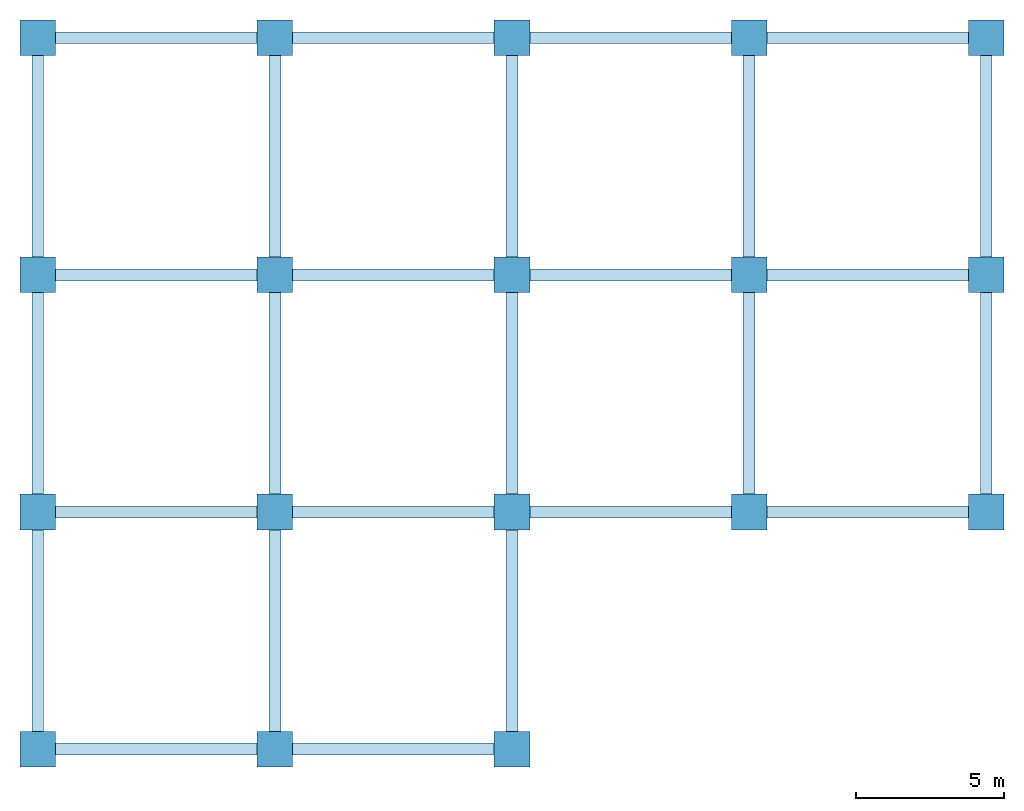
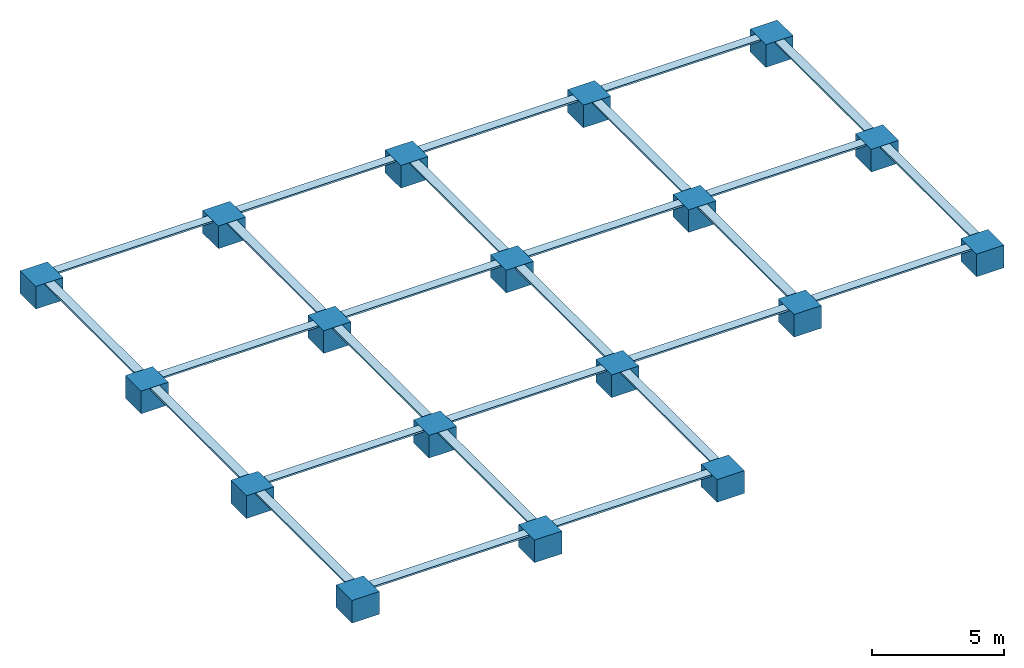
# One storey: 27 slabs, 18 footings.
"""IFC4X3_ADD2 building model written with IfcOpenShell, lengths in millimetres."""

from ifc_helpers import new_model, entity, si_unit, converted_unit, derived_unit, direction, frame, frame_2d, origin, origin_2d_with_axis, place, context, subcontext, project, spatial, rectangle, extrude, source, transform, mapped, material, layer, layer_set, layer_usage, type_object, type_shapes, element, save


model = new_model("IFC4X3_ADD2")

# Units and contexts
model_context = context("Model", 3, precision=0.01, world=origin(), true_north=direction((6.123233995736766e-17, 1.0)))
plan_context = context("Plan", 3, precision=0.01, world=origin(), true_north=direction((6.123233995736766e-17, 1.0)))
body_context = subcontext(model_context, "Body", "Model", "MODEL_VIEW")
ifc_project = project(units=[si_unit("LENGTHUNIT", "METRE", prefix="MILLI"), converted_unit("PLANEANGLEUNIT", "DEGREE", entity("IfcPlaneAngleMeasure", 0.017453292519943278), si_unit("PLANEANGLEUNIT", "RADIAN"), dimensions=[0, 0, 0, 0, 0, 0, 0]), si_unit("AREAUNIT", "SQUARE_METRE"), si_unit("VOLUMEUNIT", "CUBIC_METRE"), derived_unit("THERMALTRANSMITTANCEUNIT", [(si_unit("MASSUNIT", "GRAM", prefix="KILO"), 1), (si_unit("THERMODYNAMICTEMPERATUREUNIT", "KELVIN"), -1), (si_unit("TIMEUNIT", "SECOND"), -3)]), derived_unit("USERDEFINED", [(si_unit("MASSUNIT", "GRAM", prefix="KILO"), 1), (si_unit("THERMODYNAMICTEMPERATUREUNIT", "KELVIN"), -1), (si_unit("TIMEUNIT", "SECOND"), -2)]), derived_unit("THERMALRESISTANCEUNIT", [(si_unit("MASSUNIT", "GRAM", prefix="KILO"), -1), (si_unit("TIMEUNIT", "SECOND"), 3), (si_unit("THERMODYNAMICTEMPERATUREUNIT", "KELVIN"), 1)]), si_unit("PRESSUREUNIT", "PASCAL"), derived_unit("MASSDENSITYUNIT", [(si_unit("MASSUNIT", "GRAM", prefix="KILO"), 1), (si_unit("LENGTHUNIT", "METRE"), -3)]), derived_unit("MODULUSOFELASTICITYUNIT", [(si_unit("MASSUNIT", "GRAM", prefix="KILO"), 1), (si_unit("TIMEUNIT", "SECOND"), -2), (si_unit("LENGTHUNIT", "METRE"), -1)]), derived_unit("THERMALEXPANSIONCOEFFICIENTUNIT", [(si_unit("THERMODYNAMICTEMPERATUREUNIT", "KELVIN"), -1)]), derived_unit("VAPORPERMEABILITYUNIT", [(si_unit("LENGTHUNIT", "METRE"), -1), (si_unit("TIMEUNIT", "SECOND"), 1)]), derived_unit("USERDEFINED", [(si_unit("MASSUNIT", "GRAM", prefix="KILO"), 1), (si_unit("TIMEUNIT", "SECOND"), -3), (si_unit("LENGTHUNIT", "METRE"), 3), (si_unit("ELECTRICCURRENTUNIT", "AMPERE"), -2)]), derived_unit("SPECIFICHEATCAPACITYUNIT", [(si_unit("THERMODYNAMICTEMPERATUREUNIT", "KELVIN"), -1), (si_unit("TIMEUNIT", "SECOND"), -2), (si_unit("LENGTHUNIT", "METRE"), 2)]), derived_unit("THERMALCONDUCTANCEUNIT", [(si_unit("MASSUNIT", "GRAM", prefix="KILO"), 1), (si_unit("THERMODYNAMICTEMPERATUREUNIT", "KELVIN"), -1), (si_unit("TIMEUNIT", "SECOND"), -3), (si_unit("LENGTHUNIT", "METRE"), 1)])], contexts=[model_context, plan_context])

# Site, building, storey
site_placement = place(None, origin())
site = spatial("IfcSite", under=ifc_project, at=site_placement, Name="Default", CompositionType="ELEMENT")
building_placement = place(site_placement, origin())
building = spatial("IfcBuilding", under=site, at=building_placement, Name="Building Name", CompositionType="ELEMENT")
storey_placement = place(building_placement, frame((0.0, 0.0, -800.0)))
storey = spatial("IfcBuildingStorey", under=building, at=storey_placement, Name="L-01", CompositionType="ELEMENT", Elevation=-800.0)

# Footings
ifc_material_1 = material(Name="Concrete, Cast-in-Place gray", Category="Concrete")
footing_type = type_object("IfcFootingType", Name="M_Footing-Rectangular:1200 x 1200 x 1050mm", PredefinedType="NOTDEFINED", material=ifc_material_1)
shared_shape = source(origin(), body_context, "Body", "SweptSolid", [
    extrude(rectangle(XDim=1200.0, YDim=1200.0, at=origin_2d_with_axis()), frame((0.0, 0.0, -1050.0), z_axis=(0.0, 0.0, 1.0), x_axis=(-1.0, 0.0, 0.0)), (0.0, 0.0, 1.0), 1050.0),
])
type_shapes(footing_type, [shared_shape])
for number, where, name in (
    (1, (-12967.951236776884, 12096.696870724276, 0.0), "M_Footing-Rectangular:1200 x 1200 x 1050mm"),
    (2, (3032.0487632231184, 12096.696870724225, 0.0), "M_Footing-Rectangular:1200 x 1200 x 1050mm"),
    (3, (11032.048763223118, 12096.6968707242, 0.0), "M_Footing-Rectangular:1200 x 1200 x 1050mm"),
    (4, (19032.04876322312, 12096.696870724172, 0.0), "M_Footing-Rectangular:1200 x 1200 x 1050mm"),
    (5, (-4967.951236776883, 12096.69687072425, 0.0), "M_Footing-Rectangular:1200 x 1200 x 1050mm"),
    (6, (-12967.951236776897, 4096.69687072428, 0.0), "M_Footing-Rectangular:1200 x 1200 x 1050mm"),
    (7, (3032.048763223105, 4096.696870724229, 0.0), "M_Footing-Rectangular:1200 x 1200 x 1050mm"),
    (8, (11032.048763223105, 4096.696870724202, 0.0), "M_Footing-Rectangular:1200 x 1200 x 1050mm"),
    (9, (19032.048763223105, 4096.696870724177, 0.0), "M_Footing-Rectangular:1200 x 1200 x 1050mm"),
    (10, (-4967.951236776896, 4096.696870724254, 0.0), "M_Footing-Rectangular:1200 x 1200 x 1050mm"),
    (11, (-12967.95123677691, -3903.30312927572, 0.0), "M_Footing-Rectangular:1200 x 1200 x 1050mm"),
    (12, (3032.048763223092, -3903.303129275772, 0.0), "M_Footing-Rectangular:1200 x 1200 x 1050mm"),
    (13, (11032.048763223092, -3903.3031292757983, 0.0), "M_Footing-Rectangular:1200 x 1200 x 1050mm"),
    (14, (19032.048763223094, -3903.303129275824, 0.0), "M_Footing-Rectangular:1200 x 1200 x 1050mm"),
    (15, (-4967.951236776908, -3903.303129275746, 0.0), "M_Footing-Rectangular:1200 x 1200 x 1050mm"),
    (16, (-12967.951236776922, -11903.30312927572, 0.0), "M_Footing-Rectangular:1200 x 1200 x 1050mm"),
    (17, (3032.0487632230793, -11903.303129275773, 0.0), "M_Footing-Rectangular:1200 x 1200 x 1050mm"),
    (18, (-4967.951236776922, -11903.303129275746, 0.0), "M_Footing-Rectangular:1200 x 1200 x 1050mm"),
):
    element("IfcFooting", number, at=place(storey_placement, frame(where)), inside=storey, type_object=footing_type, material=ifc_material_1, Name=name, ObjectType="M_Footing-Rectangular:1200 x 1200 x 1050mm", PredefinedType="NOTDEFINED", context=body_context, shape_type="MappedRepresentation", body=[
        mapped(shared_shape, transform((0.0, 0.0, 0.0), scale=1.0)),
    ])

# Slabs
ifc_material_2 = material(Name="Concrete - Cast-in-Place Concrete", Category="Concrete")
ifc_layer = layer(ifc_material_2, 80.0, Name="Concrete - Cast-in-Place Concrete", Category="Concrete")
ifc_layer_set = layer_set([ifc_layer], Name="Floor:Blinding concrete 80mm")
ifc_layer_usage_1 = layer_usage(ifc_layer_set, "AXIS3", "POSITIVE", 0.0)
slab_type = type_object("IfcSlabType", Name="Floor:Blinding concrete 80mm", PredefinedType="FLOOR", material=ifc_layer_set)
slab_1_placement = place(storey_placement, origin())
element("IfcSlab", 19, at=slab_1_placement, inside=storey, type_object=slab_type, material=ifc_layer_usage_1, Name="Floor:Blinding concrete 80mm", ObjectType="Floor:Blinding concrete 80mm", PredefinedType="FLOOR", context=body_context, shape_type="SweptSolid", body=[
    extrude(rectangle(XDim=6799.999999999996, YDim=400.00000000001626, at=frame_2d((0.0, 5.400124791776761e-13), x_axis=(1.0, 0.0))), frame((-4967.951236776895, 8096.696870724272, 0.0), z_axis=(0.0, 0.0, -1.0), x_axis=(0.0, 1.0, 0.0)), (0.0, 0.0, 1.0), 79.99999999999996),
])
ifc_layer_usage_2 = layer_usage(ifc_layer_set, "AXIS3", "POSITIVE", 0.0)
slab_2_placement = place(storey_placement, origin())
element("IfcSlab", 20, at=slab_2_placement, inside=storey, type_object=slab_type, material=ifc_layer_usage_2, Name="Floor:Blinding concrete 80mm", ObjectType="Floor:Blinding concrete 80mm", PredefinedType="FLOOR", context=body_context, shape_type="SweptSolid", body=[
    extrude(rectangle(XDim=6799.999999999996, YDim=400.00000000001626, at=origin_2d_with_axis()), frame((3032.0487632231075, 8096.696870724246, 0.0), z_axis=(0.0, 0.0, -1.0), x_axis=(0.0, 1.0, 0.0)), (0.0, 0.0, 1.0), 79.99999999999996),
])
ifc_layer_usage_3 = layer_usage(ifc_layer_set, "AXIS3", "POSITIVE", 0.0)
slab_3_placement = place(storey_placement, origin())
element("IfcSlab", 21, at=slab_3_placement, inside=storey, type_object=slab_type, material=ifc_layer_usage_3, Name="Floor:Blinding concrete 80mm", ObjectType="Floor:Blinding concrete 80mm", PredefinedType="FLOOR", context=body_context, shape_type="SweptSolid", body=[
    extrude(rectangle(XDim=6799.999999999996, YDim=400.00000000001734, at=origin_2d_with_axis()), frame((11032.048763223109, 8096.69687072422, 0.0), z_axis=(0.0, 0.0, -1.0), x_axis=(0.0, 1.0, 0.0)), (0.0, 0.0, 1.0), 79.99999999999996),
])
ifc_layer_usage_4 = layer_usage(ifc_layer_set, "AXIS3", "POSITIVE", 0.0)
slab_4_placement = place(storey_placement, origin())
element("IfcSlab", 22, at=slab_4_placement, inside=storey, type_object=slab_type, material=ifc_layer_usage_4, Name="Floor:Blinding concrete 80mm", ObjectType="Floor:Blinding concrete 80mm", PredefinedType="FLOOR", context=body_context, shape_type="SweptSolid", body=[
    extrude(rectangle(XDim=6799.999999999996, YDim=400.00000000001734, at=origin_2d_with_axis()), frame((19032.04876322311, 8096.696870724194, 0.0), z_axis=(0.0, 0.0, -1.0), x_axis=(0.0, 1.0, 0.0)), (0.0, 0.0, 1.0), 79.99999999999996),
])
ifc_layer_usage_5 = layer_usage(ifc_layer_set, "AXIS3", "POSITIVE", 0.0)
slab_5_placement = place(storey_placement, origin())
element("IfcSlab", 23, at=slab_5_placement, inside=storey, type_object=slab_type, material=ifc_layer_usage_5, Name="Floor:Blinding concrete 80mm", ObjectType="Floor:Blinding concrete 80mm", PredefinedType="FLOOR", context=body_context, shape_type="SweptSolid", body=[
    extrude(rectangle(XDim=6799.999999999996, YDim=400.00000000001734, at=frame_2d((0.0, 2.1600499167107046e-12), x_axis=(1.0, 0.0))), frame((-12967.951236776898, 8096.696870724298, 0.0), z_axis=(0.0, 0.0, -1.0), x_axis=(0.0, 1.0, 0.0)), (0.0, 0.0, 1.0), 79.99999999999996),
])
ifc_layer_usage_6 = layer_usage(ifc_layer_set, "AXIS3", "POSITIVE", 0.0)
slab_6_placement = place(storey_placement, origin())
element("IfcSlab", 24, at=slab_6_placement, inside=storey, type_object=slab_type, material=ifc_layer_usage_6, Name="Floor:Blinding concrete 80mm", ObjectType="Floor:Blinding concrete 80mm", PredefinedType="FLOOR", context=body_context, shape_type="SweptSolid", body=[
    extrude(rectangle(XDim=6799.999999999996, YDim=400.00000000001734, at=origin_2d_with_axis()), frame((-12967.95123677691, 96.69687072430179, 0.0), z_axis=(0.0, 0.0, -1.0), x_axis=(0.0, 1.0, 0.0)), (0.0, 0.0, 1.0), 79.99999999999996),
])
ifc_layer_usage_7 = layer_usage(ifc_layer_set, "AXIS3", "POSITIVE", 0.0)
slab_7_placement = place(storey_placement, origin())
element("IfcSlab", 25, at=slab_7_placement, inside=storey, type_object=slab_type, material=ifc_layer_usage_7, Name="Floor:Blinding concrete 80mm", ObjectType="Floor:Blinding concrete 80mm", PredefinedType="FLOOR", context=body_context, shape_type="SweptSolid", body=[
    extrude(rectangle(XDim=6799.999999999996, YDim=400.00000000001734, at=frame_2d((0.0, -2.1600499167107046e-12), x_axis=(1.0, 0.0))), frame((-12967.95123677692, -7903.303129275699, 0.0), z_axis=(0.0, 0.0, -1.0), x_axis=(0.0, 1.0, 0.0)), (0.0, 0.0, 1.0), 79.99999999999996),
])
ifc_layer_usage_8 = layer_usage(ifc_layer_set, "AXIS3", "POSITIVE", 0.0)
slab_8_placement = place(storey_placement, origin())
element("IfcSlab", 26, at=slab_8_placement, inside=storey, type_object=slab_type, material=ifc_layer_usage_8, Name="Floor:Blinding concrete 80mm", ObjectType="Floor:Blinding concrete 80mm", PredefinedType="FLOOR", context=body_context, shape_type="SweptSolid", body=[
    extrude(rectangle(XDim=6799.999999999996, YDim=400.00000000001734, at=origin_2d_with_axis()), frame((-4967.951236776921, -7903.303129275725, 0.0), z_axis=(0.0, 0.0, -1.0), x_axis=(0.0, 1.0, 0.0)), (0.0, 0.0, 1.0), 79.99999999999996),
])
ifc_layer_usage_9 = layer_usage(ifc_layer_set, "AXIS3", "POSITIVE", 0.0)
slab_9_placement = place(storey_placement, origin())
element("IfcSlab", 27, at=slab_9_placement, inside=storey, type_object=slab_type, material=ifc_layer_usage_9, Name="Floor:Blinding concrete 80mm", ObjectType="Floor:Blinding concrete 80mm", PredefinedType="FLOOR", context=body_context, shape_type="SweptSolid", body=[
    extrude(rectangle(XDim=6799.999999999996, YDim=400.00000000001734, at=origin_2d_with_axis()), frame((-4967.9512367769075, 96.6968707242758, 0.0), z_axis=(0.0, 0.0, -1.0), x_axis=(0.0, 1.0, 0.0)), (0.0, 0.0, 1.0), 79.99999999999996),
])
ifc_layer_usage_10 = layer_usage(ifc_layer_set, "AXIS3", "POSITIVE", 0.0)
slab_10_placement = place(storey_placement, origin())
element("IfcSlab", 28, at=slab_10_placement, inside=storey, type_object=slab_type, material=ifc_layer_usage_10, Name="Floor:Blinding concrete 80mm", ObjectType="Floor:Blinding concrete 80mm", PredefinedType="FLOOR", context=body_context, shape_type="SweptSolid", body=[
    extrude(rectangle(XDim=6799.999999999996, YDim=400.00000000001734, at=origin_2d_with_axis()), frame((3032.048763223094, 96.69687072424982, 0.0), z_axis=(0.0, 0.0, -1.0), x_axis=(0.0, 1.0, 0.0)), (0.0, 0.0, 1.0), 79.99999999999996),
])
ifc_layer_usage_11 = layer_usage(ifc_layer_set, "AXIS3", "POSITIVE", 0.0)
slab_11_placement = place(storey_placement, origin())
element("IfcSlab", 29, at=slab_11_placement, inside=storey, type_object=slab_type, material=ifc_layer_usage_11, Name="Floor:Blinding concrete 80mm", ObjectType="Floor:Blinding concrete 80mm", PredefinedType="FLOOR", context=body_context, shape_type="SweptSolid", body=[
    extrude(rectangle(XDim=6799.999999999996, YDim=400.00000000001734, at=origin_2d_with_axis()), frame((11032.048763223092, 96.69687072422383, 0.0), z_axis=(0.0, 0.0, -1.0), x_axis=(0.0, 1.0, 0.0)), (0.0, 0.0, 1.0), 79.99999999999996),
])
ifc_layer_usage_12 = layer_usage(ifc_layer_set, "AXIS3", "POSITIVE", 0.0)
slab_12_placement = place(storey_placement, origin())
element("IfcSlab", 30, at=slab_12_placement, inside=storey, type_object=slab_type, material=ifc_layer_usage_12, Name="Floor:Blinding concrete 80mm", ObjectType="Floor:Blinding concrete 80mm", PredefinedType="FLOOR", context=body_context, shape_type="SweptSolid", body=[
    extrude(rectangle(XDim=6799.999999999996, YDim=400.00000000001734, at=frame_2d((0.0, -2.1600499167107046e-12), x_axis=(1.0, 0.0))), frame((19032.048763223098, 96.69687072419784, 0.0), z_axis=(0.0, 0.0, -1.0), x_axis=(0.0, 1.0, 0.0)), (0.0, 0.0, 1.0), 79.99999999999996),
])
ifc_layer_usage_13 = layer_usage(ifc_layer_set, "AXIS3", "POSITIVE", 0.0)
slab_13_placement = place(storey_placement, origin())
element("IfcSlab", 31, at=slab_13_placement, inside=storey, type_object=slab_type, material=ifc_layer_usage_13, Name="Floor:Blinding concrete 80mm", ObjectType="Floor:Blinding concrete 80mm", PredefinedType="FLOOR", context=body_context, shape_type="SweptSolid", body=[
    extrude(rectangle(XDim=6799.999999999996, YDim=400.00000000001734, at=origin_2d_with_axis()), frame((3032.048763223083, -7903.3031292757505, 0.0), z_axis=(0.0, 0.0, -1.0), x_axis=(0.0, 1.0, 0.0)), (0.0, 0.0, 1.0), 79.99999999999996),
])
ifc_layer_usage_14 = layer_usage(ifc_layer_set, "AXIS3", "POSITIVE", 0.0)
slab_14_placement = place(storey_placement, origin())
element("IfcSlab", 32, at=slab_14_placement, inside=storey, type_object=slab_type, material=ifc_layer_usage_14, Name="Floor:Blinding concrete 80mm", ObjectType="Floor:Blinding concrete 80mm", PredefinedType="FLOOR", context=body_context, shape_type="SweptSolid", body=[
    extrude(rectangle(XDim=399.9999999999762, YDim=6800.0, at=origin_2d_with_axis()), frame((-967.9512367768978, 4096.696870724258, 0.0), z_axis=(0.0, 0.0, -1.0), x_axis=(0.0, 1.0, 0.0)), (0.0, 0.0, 1.0), 79.99999999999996),
])
ifc_layer_usage_15 = layer_usage(ifc_layer_set, "AXIS3", "POSITIVE", 0.0)
slab_15_placement = place(storey_placement, origin())
element("IfcSlab", 33, at=slab_15_placement, inside=storey, type_object=slab_type, material=ifc_layer_usage_15, Name="Floor:Blinding concrete 80mm", ObjectType="Floor:Blinding concrete 80mm", PredefinedType="FLOOR", context=body_context, shape_type="SweptSolid", body=[
    extrude(rectangle(XDim=399.9999999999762, YDim=6800.0, at=origin_2d_with_axis()), frame((7032.0487632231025, 4096.696870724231, 0.0), z_axis=(0.0, 0.0, -1.0), x_axis=(0.0, 1.0, 0.0)), (0.0, 0.0, 1.0), 79.99999999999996),
])
ifc_layer_usage_16 = layer_usage(ifc_layer_set, "AXIS3", "POSITIVE", 0.0)
slab_16_placement = place(storey_placement, origin())
element("IfcSlab", 34, at=slab_16_placement, inside=storey, type_object=slab_type, material=ifc_layer_usage_16, Name="Floor:Blinding concrete 80mm", ObjectType="Floor:Blinding concrete 80mm", PredefinedType="FLOOR", context=body_context, shape_type="SweptSolid", body=[
    extrude(rectangle(XDim=399.9999999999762, YDim=6800.0, at=origin_2d_with_axis()), frame((15032.048763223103, 4096.696870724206, 0.0), z_axis=(0.0, 0.0, -1.0), x_axis=(0.0, 1.0, 0.0)), (0.0, 0.0, 1.0), 79.99999999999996),
])
ifc_layer_usage_17 = layer_usage(ifc_layer_set, "AXIS3", "POSITIVE", 0.0)
slab_17_placement = place(storey_placement, origin())
element("IfcSlab", 35, at=slab_17_placement, inside=storey, type_object=slab_type, material=ifc_layer_usage_17, Name="Floor:Blinding concrete 80mm", ObjectType="Floor:Blinding concrete 80mm", PredefinedType="FLOOR", context=body_context, shape_type="SweptSolid", body=[
    extrude(rectangle(XDim=399.9999999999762, YDim=6800.0, at=origin_2d_with_axis()), frame((-967.9512367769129, -3903.3031292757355, 0.0), z_axis=(0.0, 0.0, -1.0), x_axis=(0.0, 1.0, 0.0)), (0.0, 0.0, 1.0), 79.99999999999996),
])
ifc_layer_usage_18 = layer_usage(ifc_layer_set, "AXIS3", "POSITIVE", 0.0)
slab_18_placement = place(storey_placement, origin())
element("IfcSlab", 36, at=slab_18_placement, inside=storey, type_object=slab_type, material=ifc_layer_usage_18, Name="Floor:Blinding concrete 80mm", ObjectType="Floor:Blinding concrete 80mm", PredefinedType="FLOOR", context=body_context, shape_type="SweptSolid", body=[
    extrude(rectangle(XDim=399.9999999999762, YDim=6800.0, at=origin_2d_with_axis()), frame((7032.04876322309, -3903.3031292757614, 0.0), z_axis=(0.0, 0.0, -1.0), x_axis=(0.0, 1.0, 0.0)), (0.0, 0.0, 1.0), 79.99999999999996),
])
ifc_layer_usage_19 = layer_usage(ifc_layer_set, "AXIS3", "POSITIVE", 0.0)
slab_19_placement = place(storey_placement, origin())
element("IfcSlab", 37, at=slab_19_placement, inside=storey, type_object=slab_type, material=ifc_layer_usage_19, Name="Floor:Blinding concrete 80mm", ObjectType="Floor:Blinding concrete 80mm", PredefinedType="FLOOR", context=body_context, shape_type="SweptSolid", body=[
    extrude(rectangle(XDim=399.9999999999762, YDim=6800.0, at=origin_2d_with_axis()), frame((15032.04876322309, -3903.3031292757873, 0.0), z_axis=(0.0, 0.0, -1.0), x_axis=(0.0, 1.0, 0.0)), (0.0, 0.0, 1.0), 79.99999999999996),
])
ifc_layer_usage_20 = layer_usage(ifc_layer_set, "AXIS3", "POSITIVE", 0.0)
slab_20_placement = place(storey_placement, origin())
element("IfcSlab", 38, at=slab_20_placement, inside=storey, type_object=slab_type, material=ifc_layer_usage_20, Name="Floor:Blinding concrete 80mm", ObjectType="Floor:Blinding concrete 80mm", PredefinedType="FLOOR", context=body_context, shape_type="SweptSolid", body=[
    extrude(rectangle(XDim=399.9999999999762, YDim=6800.0, at=frame_2d((-1.0800249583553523e-12, 0.0), x_axis=(1.0, 0.0))), frame((-967.9512367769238, -11903.303129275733, 0.0), z_axis=(0.0, 0.0, -1.0), x_axis=(0.0, 1.0, 0.0)), (0.0, 0.0, 1.0), 79.99999999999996),
])
ifc_layer_usage_21 = layer_usage(ifc_layer_set, "AXIS3", "POSITIVE", 0.0)
slab_21_placement = place(storey_placement, origin())
element("IfcSlab", 39, at=slab_21_placement, inside=storey, type_object=slab_type, material=ifc_layer_usage_21, Name="Floor:Blinding concrete 80mm", ObjectType="Floor:Blinding concrete 80mm", PredefinedType="FLOOR", context=body_context, shape_type="SweptSolid", body=[
    extrude(rectangle(XDim=399.9999999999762, YDim=6800.0, at=frame_2d((-1.0800249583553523e-12, 0.0), x_axis=(1.0, 0.0))), frame((-8967.951236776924, -11903.303129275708, 0.0), z_axis=(0.0, 0.0, -1.0), x_axis=(0.0, 1.0, 0.0)), (0.0, 0.0, 1.0), 79.99999999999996),
])
ifc_layer_usage_22 = layer_usage(ifc_layer_set, "AXIS3", "POSITIVE", 0.0)
slab_22_placement = place(storey_placement, origin())
element("IfcSlab", 40, at=slab_22_placement, inside=storey, type_object=slab_type, material=ifc_layer_usage_22, Name="Floor:Blinding concrete 80mm", ObjectType="Floor:Blinding concrete 80mm", PredefinedType="FLOOR", context=body_context, shape_type="SweptSolid", body=[
    extrude(rectangle(XDim=399.9999999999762, YDim=6800.0, at=origin_2d_with_axis()), frame((-8967.951236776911, -3903.303129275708, 0.0), z_axis=(0.0, 0.0, -1.0), x_axis=(0.0, 1.0, 0.0)), (0.0, 0.0, 1.0), 79.99999999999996),
])
ifc_layer_usage_23 = layer_usage(ifc_layer_set, "AXIS3", "POSITIVE", 0.0)
slab_23_placement = place(storey_placement, origin())
element("IfcSlab", 41, at=slab_23_placement, inside=storey, type_object=slab_type, material=ifc_layer_usage_23, Name="Floor:Blinding concrete 80mm", ObjectType="Floor:Blinding concrete 80mm", PredefinedType="FLOOR", context=body_context, shape_type="SweptSolid", body=[
    extrude(rectangle(XDim=399.9999999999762, YDim=6800.0, at=origin_2d_with_axis()), frame((-8967.951236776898, 4096.696870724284, 0.0), z_axis=(0.0, 0.0, -1.0), x_axis=(0.0, 1.0, 0.0)), (0.0, 0.0, 1.0), 79.99999999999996),
])
ifc_layer_usage_24 = layer_usage(ifc_layer_set, "AXIS3", "POSITIVE", 0.0)
slab_24_placement = place(storey_placement, origin())
element("IfcSlab", 42, at=slab_24_placement, inside=storey, type_object=slab_type, material=ifc_layer_usage_24, Name="Floor:Blinding concrete 80mm", ObjectType="Floor:Blinding concrete 80mm", PredefinedType="FLOOR", context=body_context, shape_type="SweptSolid", body=[
    extrude(rectangle(XDim=399.9999999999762, YDim=6800.0, at=frame_2d((1.0800249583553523e-12, 0.0), x_axis=(1.0, 0.0))), frame((-8967.951236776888, 12096.696870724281, 0.0), z_axis=(0.0, 0.0, -1.0), x_axis=(0.0, 1.0, 0.0)), (0.0, 0.0, 1.0), 79.99999999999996),
])
ifc_layer_usage_25 = layer_usage(ifc_layer_set, "AXIS3", "POSITIVE", 0.0)
slab_25_placement = place(storey_placement, origin())
element("IfcSlab", 43, at=slab_25_placement, inside=storey, type_object=slab_type, material=ifc_layer_usage_25, Name="Floor:Blinding concrete 80mm", ObjectType="Floor:Blinding concrete 80mm", PredefinedType="FLOOR", context=body_context, shape_type="SweptSolid", body=[
    extrude(rectangle(XDim=399.9999999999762, YDim=6800.0, at=frame_2d((1.0800249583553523e-12, 0.0), x_axis=(1.0, 0.0))), frame((-967.9512367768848, 12096.696870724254, 0.0), z_axis=(0.0, 0.0, -1.0), x_axis=(0.0, 1.0, 0.0)), (0.0, 0.0, 1.0), 79.99999999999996),
])
ifc_layer_usage_26 = layer_usage(ifc_layer_set, "AXIS3", "POSITIVE", 0.0)
slab_26_placement = place(storey_placement, origin())
element("IfcSlab", 44, at=slab_26_placement, inside=storey, type_object=slab_type, material=ifc_layer_usage_26, Name="Floor:Blinding concrete 80mm", ObjectType="Floor:Blinding concrete 80mm", PredefinedType="FLOOR", context=body_context, shape_type="SweptSolid", body=[
    extrude(rectangle(XDim=399.9999999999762, YDim=6800.0, at=frame_2d((1.0800249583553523e-12, 0.0), x_axis=(1.0, 0.0))), frame((7032.048763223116, 12096.696870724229, 0.0), z_axis=(0.0, 0.0, -1.0), x_axis=(0.0, 1.0, 0.0)), (0.0, 0.0, 1.0), 79.99999999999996),
])
ifc_layer_usage_27 = layer_usage(ifc_layer_set, "AXIS3", "POSITIVE", 0.0)
slab_27_placement = place(storey_placement, origin())
element("IfcSlab", 45, at=slab_27_placement, inside=storey, type_object=slab_type, material=ifc_layer_usage_27, Name="Floor:Blinding concrete 80mm", ObjectType="Floor:Blinding concrete 80mm", PredefinedType="FLOOR", context=body_context, shape_type="SweptSolid", body=[
    extrude(rectangle(XDim=399.9999999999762, YDim=6800.0, at=frame_2d((1.0800249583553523e-12, 0.0), x_axis=(1.0, 0.0))), frame((15032.048763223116, 12096.696870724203, 0.0), z_axis=(0.0, 0.0, -1.0), x_axis=(0.0, 1.0, 0.0)), (0.0, 0.0, 1.0), 79.99999999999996),
])

save(model, "model.ifc")
